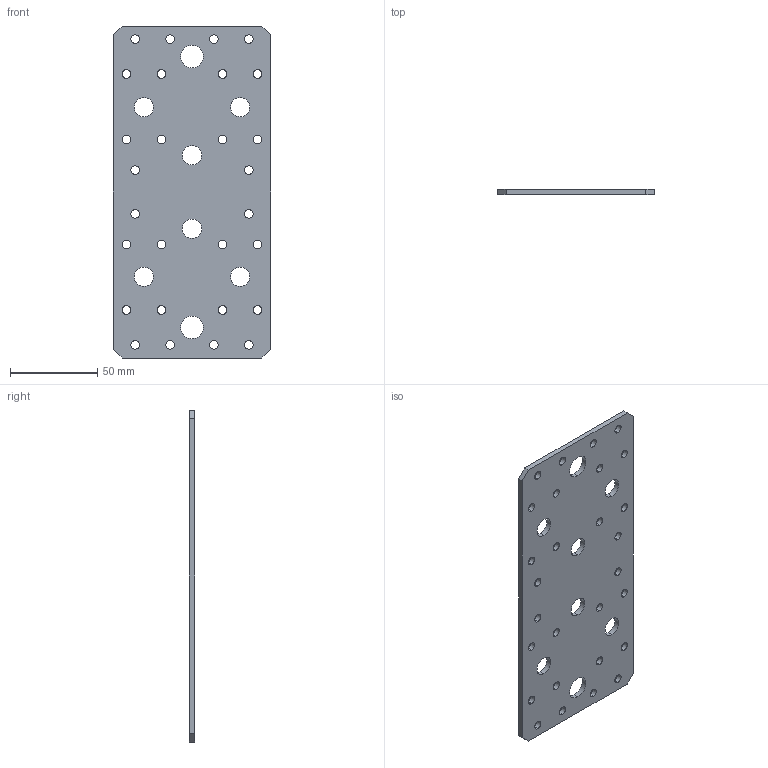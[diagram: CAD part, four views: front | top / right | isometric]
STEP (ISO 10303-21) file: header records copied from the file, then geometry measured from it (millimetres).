
FILE_DESCRIPTION (( 'STEP AP203' ), '1' );
FILE_NAME ('2190.STEP', '2019-12-10T13:53:00', ( '' ), ( '' ), 'SwSTEP 2.0', 'SolidWorks 2013', '' );
FILE_SCHEMA (( 'CONFIG_CONTROL_DESIGN' ));
Length unit declared in the file: millimetre
Products named in the file (1): 2190
Bounding box: 90 x 3 x 190 mm (x, y, z)
Volume: 46993.7 mm3; surface area: 35160.5 mm2
Topology: 1 solids, 1 shells, 82 faces, 240 edges, 160 vertices
Faces by surface type: cylinder 72, plane 10
Entity records: 3029 total; most frequent: DIRECTION 550, CARTESIAN_POINT 483, ORIENTED_EDGE 480, EDGE_CURVE 240, AXIS2_PLACEMENT_3D 227, VERTEX_POINT 160, EDGE_LOOP 154, CIRCLE 144
